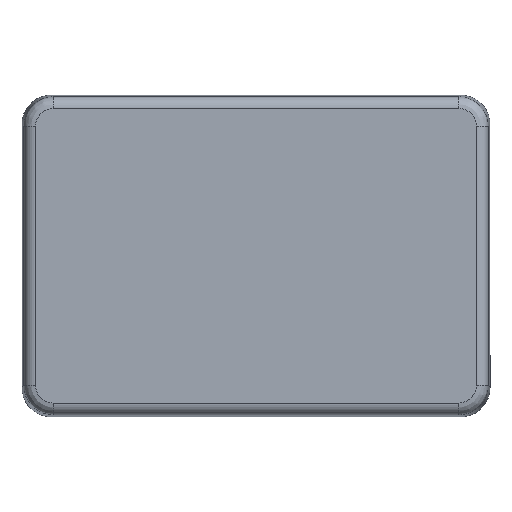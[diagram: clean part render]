
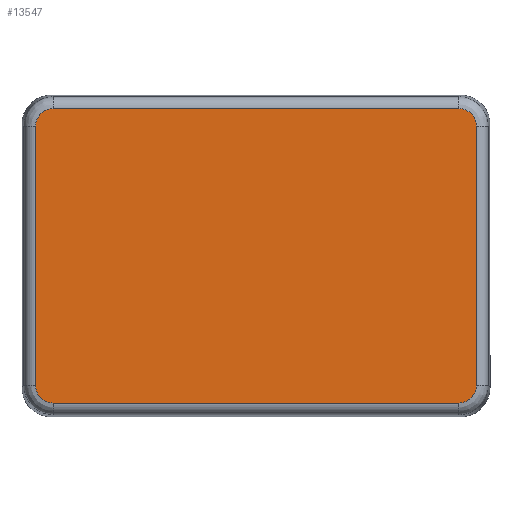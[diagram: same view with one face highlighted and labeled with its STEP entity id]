
A CAD part, top view. The second image highlights one B-rep face of the part: STEP entity #13547.
In plain terms, the highlighted planar face has unit normal (0, 0, 1).
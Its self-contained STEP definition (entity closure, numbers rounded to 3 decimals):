
#123=ELLIPSE('',#14247,3.001,3.);
#124=ELLIPSE('',#14253,3.001,3.);
#127=ELLIPSE('',#14257,3.001,3.);
#129=ELLIPSE('',#14263,3.001,3.);
#1697=FACE_OUTER_BOUND('',#2516,.T.);
#2516=EDGE_LOOP('',(#10609,#10610,#10611,#10612,#10613,#10614,#10615,#10616));
#3507=LINE('',#27940,#4579);
#3509=LINE('',#27946,#4581);
#3510=LINE('',#28019,#4582);
#3512=LINE('',#28025,#4584);
#4579=VECTOR('',#15761,44.337);
#4581=VECTOR('',#15767,69.337);
#4582=VECTOR('',#15784,69.337);
#4584=VECTOR('',#15790,44.337);
#5991=VERTEX_POINT('',#27930);
#5993=VERTEX_POINT('',#27934);
#5994=VERTEX_POINT('',#27938);
#5995=VERTEX_POINT('',#27942);
#5997=VERTEX_POINT('',#27977);
#5998=VERTEX_POINT('',#28011);
#6000=VERTEX_POINT('',#28017);
#6001=VERTEX_POINT('',#28021);
#7638=EDGE_CURVE('',#5991,#5993,#123,.T.);
#7640=EDGE_CURVE('',#5993,#5994,#3507,.F.);
#7643=EDGE_CURVE('',#5995,#5991,#3509,.F.);
#7645=EDGE_CURVE('',#5994,#5997,#124,.T.);
#7649=EDGE_CURVE('',#5998,#5995,#127,.T.);
#7651=EDGE_CURVE('',#5997,#6000,#3510,.F.);
#7654=EDGE_CURVE('',#6001,#5998,#3512,.F.);
#7656=EDGE_CURVE('',#6000,#6001,#129,.T.);
#10609=ORIENTED_EDGE('',*,*,#7643,.T.);
#10610=ORIENTED_EDGE('',*,*,#7638,.T.);
#10611=ORIENTED_EDGE('',*,*,#7640,.T.);
#10612=ORIENTED_EDGE('',*,*,#7645,.T.);
#10613=ORIENTED_EDGE('',*,*,#7651,.T.);
#10614=ORIENTED_EDGE('',*,*,#7656,.T.);
#10615=ORIENTED_EDGE('',*,*,#7654,.T.);
#10616=ORIENTED_EDGE('',*,*,#7649,.T.);
#13044=PLANE('',#14273);
#13547=ADVANCED_FACE('',(#1697),#13044,.T.);
#14247=AXIS2_PLACEMENT_3D('',#27936,#15755,#15756);
#14253=AXIS2_PLACEMENT_3D('',#27979,#15770,#15771);
#14257=AXIS2_PLACEMENT_3D('',#28015,#15778,#15779);
#14263=AXIS2_PLACEMENT_3D('',#28057,#15793,#15794);
#14273=AXIS2_PLACEMENT_3D('',#28077,#15819,#15820);
#15755=DIRECTION('center_axis',(0.,0.,1.));
#15756=DIRECTION('ref_axis',(-0.707,0.707,0.));
#15761=DIRECTION('',(0.,1.,0.));
#15767=DIRECTION('',(1.,0.,0.));
#15770=DIRECTION('center_axis',(0.,0.,1.));
#15771=DIRECTION('ref_axis',(-0.707,-0.707,0.));
#15778=DIRECTION('center_axis',(0.,0.,1.));
#15779=DIRECTION('ref_axis',(0.707,0.707,0.));
#15784=DIRECTION('',(-1.,0.,0.));
#15790=DIRECTION('',(0.,-1.,0.));
#15793=DIRECTION('center_axis',(0.,0.,1.));
#15794=DIRECTION('ref_axis',(0.707,-0.707,0.));
#15819=DIRECTION('center_axis',(0.,0.,1.));
#15820=DIRECTION('ref_axis',(1.,0.,0.));
#27930=CARTESIAN_POINT('',(-34.669,25.168,21.));
#27934=CARTESIAN_POINT('',(-37.668,22.169,21.));
#27936=CARTESIAN_POINT('Origin',(-34.668,22.168,21.));
#27938=CARTESIAN_POINT('',(-37.668,-22.169,21.));
#27940=CARTESIAN_POINT('',(-37.668,-22.169,21.));
#27942=CARTESIAN_POINT('',(34.669,25.168,21.));
#27946=CARTESIAN_POINT('',(-34.669,25.168,21.));
#27977=CARTESIAN_POINT('',(-34.669,-25.168,21.));
#27979=CARTESIAN_POINT('Origin',(-34.668,-22.168,21.));
#28011=CARTESIAN_POINT('',(37.668,22.169,21.));
#28015=CARTESIAN_POINT('Origin',(34.668,22.168,21.));
#28017=CARTESIAN_POINT('',(34.669,-25.168,21.));
#28019=CARTESIAN_POINT('',(34.669,-25.168,21.));
#28021=CARTESIAN_POINT('',(37.668,-22.169,21.));
#28025=CARTESIAN_POINT('',(37.668,22.169,21.));
#28057=CARTESIAN_POINT('Origin',(34.668,-22.168,21.));
#28077=CARTESIAN_POINT('Origin',(-40.,-27.5,21.));
